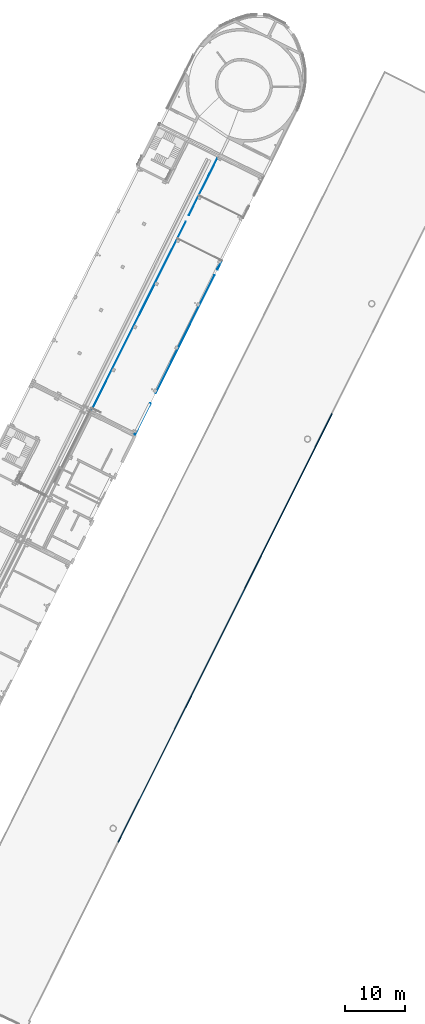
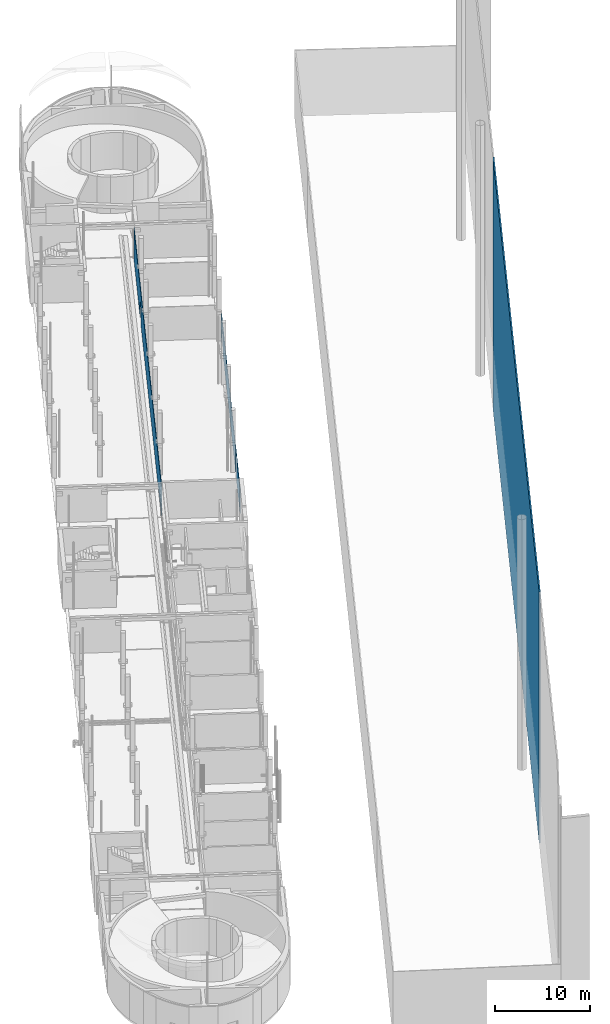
# One storey, part 15 of 91: 3 walls, 4 openings.
"""IFC2X3 building model written with IfcOpenShell, lengths in metres."""

from ifc_helpers import new_model, entity, si_unit, converted_unit, derived_unit, direction, frame, frame_2d, origin, origin_2d_with_axis, place, context, subcontext, project, spatial, polyline, rectangle, circle, extrude, clip, bounded_halfspace, material, layer, layer_set, layer_usage, type_object, element, save


model = new_model("IFC2X3")

# Units and contexts
model_context = context("Model", 3, precision=1e-05, world=origin(), true_north=direction((0.894925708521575, 0.446215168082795)))
context_of_model = context(None, 3, precision=1e-05, world=origin(), true_north=direction((0.894925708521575, 0.446215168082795)))
body_context = subcontext(model_context, "Body", "Model", "MODEL_VIEW")
ifc_project = project(units=[si_unit("LENGTHUNIT", "METRE"), si_unit("AREAUNIT", "SQUARE_METRE"), si_unit("VOLUMEUNIT", "CUBIC_METRE"), converted_unit("PLANEANGLEUNIT", "DEGREE", entity("IfcRatioMeasure", 0.0174532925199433), si_unit("PLANEANGLEUNIT", "RADIAN"), dimensions=[0, 0, 0, 0, 0, 0, 0]), si_unit("MASSUNIT", "GRAM", prefix="KILO"), si_unit("TIMEUNIT", "SECOND"), si_unit("FREQUENCYUNIT", "HERTZ"), si_unit("THERMODYNAMICTEMPERATUREUNIT", "DEGREE_CELSIUS"), derived_unit("THERMALTRANSMITTANCEUNIT", [(si_unit("MASSUNIT", "GRAM", prefix="KILO"), 1), (si_unit("THERMODYNAMICTEMPERATUREUNIT", "KELVIN"), -1), (si_unit("TIMEUNIT", "SECOND"), -3)]), derived_unit("VOLUMETRICFLOWRATEUNIT", [(si_unit("LENGTHUNIT", "METRE"), 3), (si_unit("TIMEUNIT", "SECOND"), -1)]), si_unit("ELECTRICCURRENTUNIT", "AMPERE"), si_unit("ELECTRICVOLTAGEUNIT", "VOLT"), si_unit("POWERUNIT", "WATT"), si_unit("FORCEUNIT", "NEWTON", prefix="KILO"), si_unit("ILLUMINANCEUNIT", "LUX"), si_unit("LUMINOUSFLUXUNIT", "LUMEN"), si_unit("LUMINOUSINTENSITYUNIT", "CANDELA"), si_unit("PRESSUREUNIT", "PASCAL")], contexts=[model_context, context_of_model])

# Site, building, storey
site_placement = place(None, frame((218.228324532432, 584.720189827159, 0.0), z_axis=(0.0, 0.0, 1.0), x_axis=(0.446215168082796, 0.894925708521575, 0.0)))
site = spatial("IfcSite", under=ifc_project, at=site_placement, Name="Default", CompositionType="ELEMENT")
building_placement = place(site_placement, origin())
building = spatial("IfcBuilding", under=site, at=building_placement, CompositionType="ELEMENT")
storey_placement = place(building_placement, origin())
storey = spatial("IfcBuildingStorey", under=building, at=storey_placement, Name="0 - Piano Terra", CompositionType="ELEMENT", Elevation=0.0)

# Wall, openings
ifc_material_1 = material(Name="Alluminio")
ifc_layer_1 = layer(ifc_material_1, 0.01)
ifc_material_2 = material(Name="Plastica")
ifc_layer_2 = layer(ifc_material_2, 0.04)
ifc_layer_3 = layer(ifc_material_1, 0.01)
ifc_layer_set_1 = layer_set([ifc_layer_1, ifc_layer_2, ifc_layer_3], Name="Muro di base:Pannello coibentato - 6 cm")
ifc_layer_usage_1 = layer_usage(ifc_layer_set_1, "AXIS2", "NEGATIVE", 0.03)
wall_type_1 = type_object("IfcWallType", Name="Muro di base:Pannello coibentato - 6 cm", PredefinedType="STANDARD", material=ifc_layer_set_1)
wall_1_placement = place(storey_placement, frame((58.5359369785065, -4.96607899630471, 0.0), z_axis=(0.0, 0.0, 1.0), x_axis=(-1.0, 0.0, 0.0)))
wall_1 = element("IfcWallStandardCase", 1, at=wall_1_placement, inside=storey, type_object=wall_type_1, material=ifc_layer_usage_1, Name="Muro di base:Pannello coibentato - 6 cm", ObjectType="Muro di base:Pannello coibentato - 6 cm", context=body_context, shape_type="SweptSolid", body=[
    extrude(rectangle(XDim=47.0417220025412, YDim=0.0599999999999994, at=frame_2d((23.5208610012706, 3.07046055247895e-16), x_axis=(-1.0, 0.0))), origin(), (0.0, 0.0, 1.0), 4.03),
])
opening_1_placement = place(wall_1_placement, frame((11.9563346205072, 1.554, 0.0)))
element("IfcOpeningElement", 2, at=opening_1_placement, cuts=wall_1, Name="Muro di base:Pannello coibentato - 6 cm", ObjectType="Opening", context=body_context, shape_type="SweptSolid", body=[
    extrude(rectangle(XDim=2.15, YDim=1.2, at=frame_2d((0.0, 4.32986979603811e-15), x_axis=(1.0, 0.0))), frame((-0.599999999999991, -3.048, 1.075), z_axis=(0.0, 1.0, 0.0), x_axis=(0.0, 0.0, -1.0)), (0.0, 0.0, 1.0), 3.048),
])
opening_2_placement = place(wall_1_placement, origin())
element("IfcOpeningElement", 3, at=opening_2_placement, cuts=wall_1, Name="Muro di base:Pannello coibentato - 6 cm", ObjectType="Opening", context=body_context, shape_type="SweptSolid", body=[
    extrude(circle(Radius=0.0650000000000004, at=origin_2d_with_axis()), frame((46.6417220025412, 0.0299999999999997, 3.5), z_axis=(0.0, -1.0, 0.0), x_axis=(-1.0, 0.0, 0.0)), (0.0, 0.0, 1.0), 0.06),
])

ifc_layer_usage_2 = layer_usage(ifc_layer_set_1, "AXIS2", "NEGATIVE", 0.03)
wall_2_placement = place(storey_placement, frame((43.4196023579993, -13.2310789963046, 0.09), z_axis=(0.0, 0.0, 1.0), x_axis=(-1.0, 0.0, 0.0)))
wall_2 = element("IfcWallStandardCase", 4, at=wall_2_placement, inside=storey, type_object=wall_type_1, material=ifc_layer_usage_2, Name="Muro di base:Pannello coibentato - 6 cm", ObjectType="Muro di base:Pannello coibentato - 6 cm", context=body_context, shape_type="Clipping", body=[
    clip(extrude(rectangle(XDim=32.2253873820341, YDim=0.0599999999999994, at=frame_2d((16.112693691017, 2.77555756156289e-17), x_axis=(-1.0, 0.0))), origin(), (0.0, 0.0, 1.0), 3.13), bounded_halfspace(frame((0.0, -0.0299999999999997, 3.13), z_axis=(0.0, 0.0, -1.0), x_axis=(0.0, -1.0, 0.0)), True, frame((0.0, -0.0299999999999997, 3.13)), polyline([(0.0, 0.0), (32.2253873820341, 0.0), (32.2253873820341, 0.0599999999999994), (0.0, 0.0599999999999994), (0.0, 0.0)]))),
])
opening_3_placement = place(wall_2_placement, frame((26.4637728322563, 1.49400000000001, -0.09)))
element("IfcOpeningElement", 5, at=opening_3_placement, cuts=wall_2, Name="Muro di base:Pannello coibentato - 6 cm", ObjectType="Opening", context=body_context, shape_type="SweptSolid", body=[
    extrude(rectangle(XDim=2.95, YDim=1.9, at=frame_2d((-1.11022302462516e-15, 0.0), x_axis=(0.0, 1.0))), frame((-0.949999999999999, -3.04800000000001, 1.475), z_axis=(0.0, 1.0, 0.0), x_axis=(1.0, 0.0, 0.0)), (0.0, 0.0, 1.0), 3.048),
])
opening_4_placement = place(wall_2_placement, frame((2.69000000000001, 1.49400000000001, 0.0)))
element("IfcOpeningElement", 6, at=opening_4_placement, cuts=wall_2, Name="Muro di base:Pannello coibentato - 6 cm", ObjectType="Opening", context=body_context, shape_type="SweptSolid", body=[
    extrude(rectangle(XDim=2.31, YDim=1.1, at=frame_2d((-4.32986979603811e-15, -1.11022302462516e-16), x_axis=(0.0, 1.0))), frame((-0.549999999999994, -3.048, 1.155), z_axis=(0.0, 1.0, 0.0), x_axis=(1.0, 0.0, 0.0)), (0.0, 0.0, 1.0), 3.048),
])

# Wall
ifc_material_3 = material(Name="Default - Finestre")
ifc_layer_4 = layer(ifc_material_3, 0.15)
ifc_layer_set_2 = layer_set([ifc_layer_4], Name="Muro di base:Rivestimento pannelli 5 cm")
ifc_layer_usage_3 = layer_usage(ifc_layer_set_2, "AXIS2", "NEGATIVE", 0.075)
wall_type_2 = type_object("IfcWallType", Name="Muro di base:Rivestimento pannelli 5 cm", PredefinedType="STANDARD", material=ifc_layer_set_2)
wall_3_placement = place(storey_placement, frame((-50.7346481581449, -40.947529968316, 0.0), z_axis=(0.0, 0.0, 1.0), x_axis=(0.99999999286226, -0.000119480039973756, 0.0)))
element("IfcWallStandardCase", 7, at=wall_3_placement, inside=storey, type_object=wall_type_2, material=ifc_layer_usage_3, Name="Muro di base:Rivestimento pannelli 5 cm", ObjectType="Muro di base:Rivestimento pannelli 5 cm", context=body_context, shape_type="SweptSolid", body=[
    extrude(rectangle(XDim=79.7250356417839, YDim=0.149999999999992, at=frame_2d((39.862517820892, -1.67227343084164e-15), x_axis=(-1.0, 0.0))), origin(), (0.0, 0.0, 1.0), 32.15),
])

save(model, "model.ifc")
